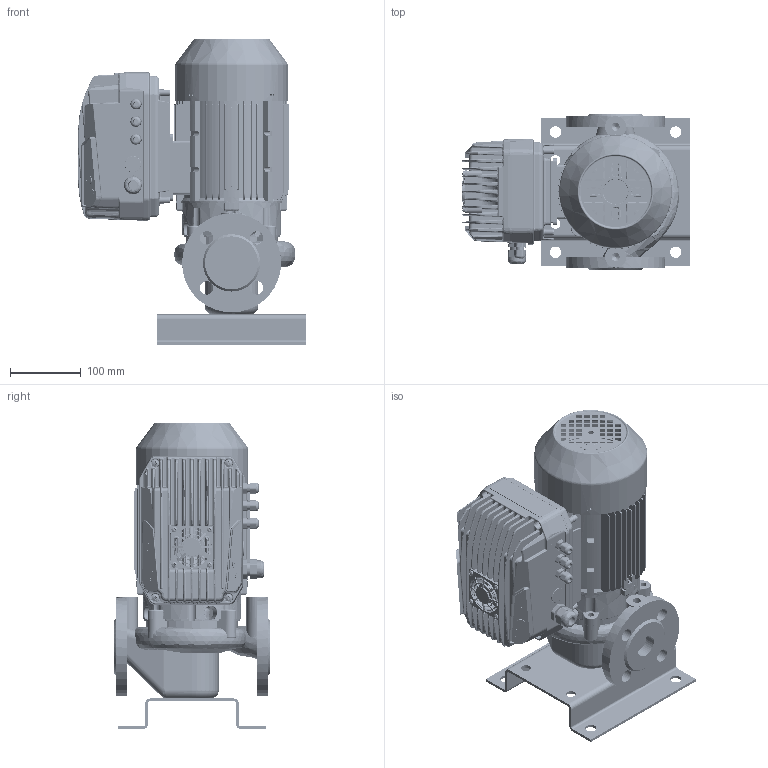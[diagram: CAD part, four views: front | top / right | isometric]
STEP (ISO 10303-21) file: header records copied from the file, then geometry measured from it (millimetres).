
FILE_DESCRIPTION(('STEP AP214'),'1');
FILE_NAME('export.stp','2022-08-29T11:08:51',(' '),(' '),'Spatial InterOp 3D',' ',' ');
FILE_SCHEMA(('AUTOMOTIVE_DESIGN { 1 0 10303 214 1 1 1 1 }'));
Length unit declared in the file: millimetre
Products named in the file (37): V_AdapMida205_407; 210588; DIN_7985-M5X8; W_L32A2_XX_KP80; V_PPL32A; V_JALKA35973; 160018; 160002_Valu; V_MKP80_1_N12_650; 160141; 160137; 160039___; 160040___; 160133; V_TLL32AAP15AKP25; MIDA_180deg; BASE_MIDA_NASTEC_89; 3005020100_AF0_157; PRT0001; PRT0002; PRT0003; PRT0005; PRT0006; PRT0007; V4-25--_-_U7687_PZ_AF0_5; V4-25--_-_U7687_PZ_AF1_5; V4-25--_-_U7687_PZ_AF2_5; V4-25--_-_U7687_PZ_AF3_5; V5-30--_-_U7687_PZ_AF0_5; V5-30--_-_U7687_PZ_AF1_5; V5-30--_-_U7687_PZ_AF2_5; V5-30--_-_U7687_PZ_5; 2001300200_32; TASTIERA_MIDA_2_44; ETICHETTA_MIDA_9; TAPPO_PRESSACAVO_M20_5; Mida205
Assembly tree (37 placements, depth 4):
  W_L32A2_XX_KP80
    V_AdapMida205_407
      210588
      DIN_7985-M5X8  x2
    V_PPL32A
    V_JALKA35973
    V_MKP80_1_N12_650
      160018
        160002_Valu
      160141
        160137
      160039___
      160040___
      160133
    V_TLL32AAP15AKP25
    Mida205
      MIDA_180deg
        BASE_MIDA_NASTEC_89
        3005020100_AF0_157
        PRT0001
        PRT0002
        PRT0003
        PRT0005
        PRT0006
        PRT0007
        V4-25--_-_U7687_PZ_AF0_5
        V4-25--_-_U7687_PZ_AF1_5
        V4-25--_-_U7687_PZ_AF2_5
        V4-25--_-_U7687_PZ_AF3_5
        V5-30--_-_U7687_PZ_AF0_5
        V5-30--_-_U7687_PZ_AF1_5
        V5-30--_-_U7687_PZ_AF2_5
        V5-30--_-_U7687_PZ_5
        2001300200_32
        TASTIERA_MIDA_2_44
        ETICHETTA_MIDA_9
        TAPPO_PRESSACAVO_M20_5
Bounding box: 322 x 220 x 432.5 mm (x, y, z)
Volume: 3182316.4 mm3; surface area: 1311535.2 mm2
Topology: 30 solids, 31 shells, 6386 faces, 16503 edges, 10152 vertices
Faces by surface type: plane 2074, cylinder 1975, bspline 1558, cone 400, torus 316, sphere 63
Entity records: 337052 total; most frequent: CARTESIAN_POINT 165238, ORIENTED_EDGE 32640, DIRECTION 23098, EDGE_CURVE 16324, VERTEX_POINT 10121, AXIS2_PLACEMENT_3D 8491, EDGE_LOOP 6818, LINE 6116
